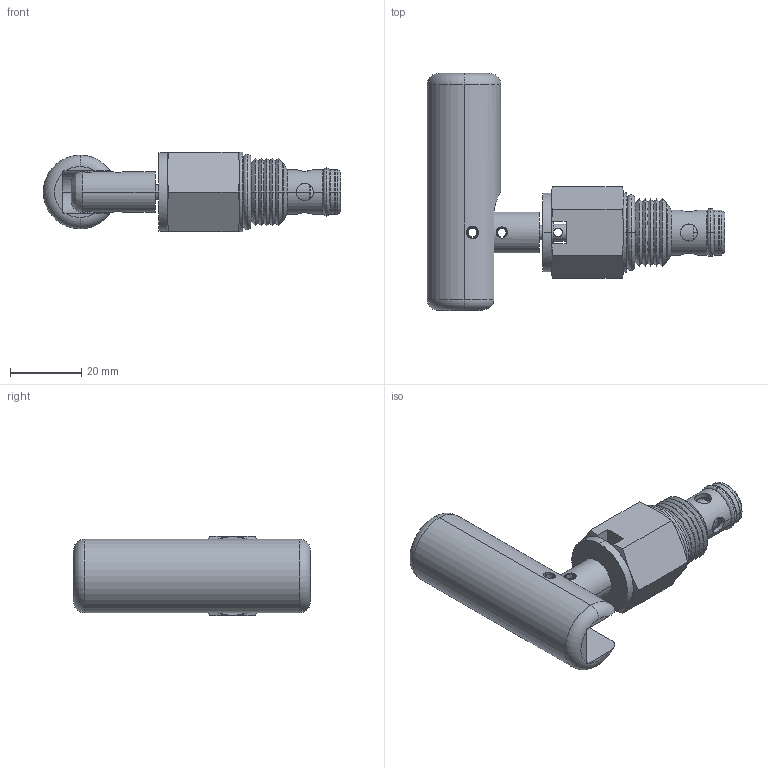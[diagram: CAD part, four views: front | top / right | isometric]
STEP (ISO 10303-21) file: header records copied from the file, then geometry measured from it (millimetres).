
FILE_DESCRIPTION((''),'2;1');
FILE_NAME('U:\Solid model CD\Solid model full\Mechanical\STEP\PBMCL00-3D Full.stp','2008-07-29T09:51:18',('Dan'),(''),'Autodesk Inventor 9','Autodesk Inventor 9','');
FILE_SCHEMA(('AUTOMOTIVE_DESIGN { 1 0 10303 214 1 1 1 1 }'));
Length unit declared in the file: inch
Products named in the file (8): PBMCL00-3D Full; PBMCL00-3D Full1; PBMCL00-3D Full2; PBMCL00-3D Full3; PBMCL00-3D Full4; PBMCL00-3D Full5; PBMCL00-3D Full6; PBMCL00-3D Full7
Assembly tree (7 placements, depth 2):
  PBMCL00-3D Full
    PBMCL00-3D Full1
    PBMCL00-3D Full2
    PBMCL00-3D Full3
    PBMCL00-3D Full4
    PBMCL00-3D Full5
    PBMCL00-3D Full6
    PBMCL00-3D Full7
Bounding box: 83.5 x 66.55 x 22.23 mm (x, y, z)
Volume: 32531.6 mm3; surface area: 13415.7 mm2
Topology: 7 solids, 7 shells, 226 faces, 547 edges, 336 vertices
Faces by surface type: cylinder 76, cone 76, plane 49, torus 19, sphere 4, bspline 2
Entity records: 7463 total; most frequent: CARTESIAN_POINT 1952, DIRECTION 1180, ORIENTED_EDGE 1094, EDGE_CURVE 547, AXIS2_PLACEMENT_3D 496, VERTEX_POINT 336, CIRCLE 257, EDGE_LOOP 255
